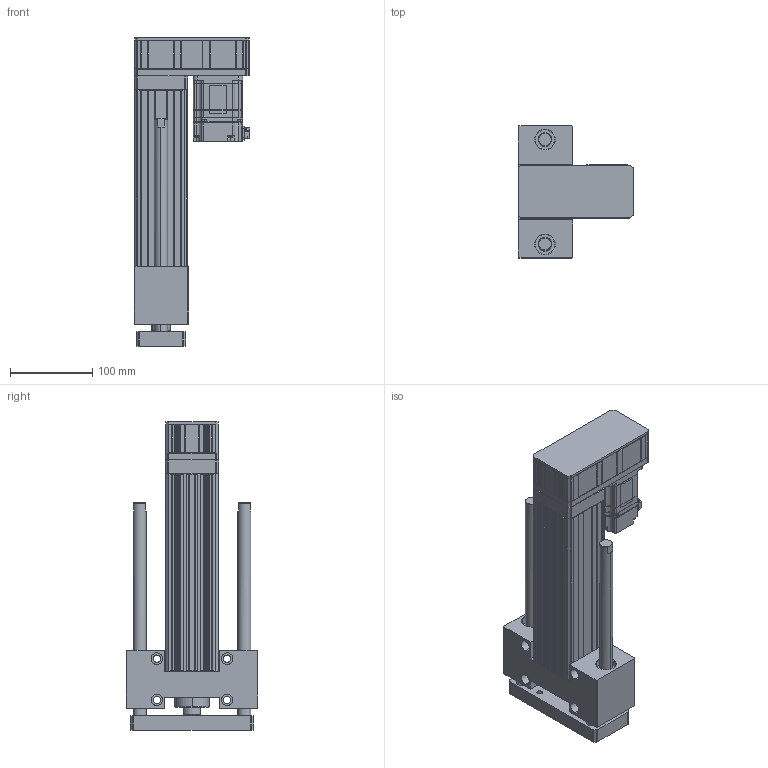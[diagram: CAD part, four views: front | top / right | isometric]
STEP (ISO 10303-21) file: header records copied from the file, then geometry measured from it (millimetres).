
FILE_DESCRIPTION (( 'STEP AP203' ), '1' );
FILE_NAME ('ANS065-HP150-05(10)-W20.STEP', '2019-03-01T05:42:03', ( 'user' ), ( '' ), 'SwSTEP 2.0', 'SolidWorks 2013', '' );
FILE_SCHEMA (( 'CONFIG_CONTROL_DESIGN' ));
Length unit declared in the file: millimetre
Products named in the file (4): sgmjv_02a_a21; ANS065-HP150-05(10)-W20; ANS065 HP150 VER2; ANS065 ROD ST150 G
Assembly tree (3 placements, depth 2):
  ANS065-HP150-05(10)-W20
    ANS065 HP150 VER2
    ANS065 ROD ST150 G
    sgmjv_02a_a21
Bounding box: 140.3 x 160 x 374.5 mm (x, y, z)
Volume: 1745901.4 mm3; surface area: 397937 mm2
Topology: 3 solids, 7 shells, 1458 faces, 3875 edges, 2502 vertices
Faces by surface type: plane 896, cylinder 452, cone 110
Entity records: 45387 total; most frequent: CARTESIAN_POINT 8127, ORIENTED_EDGE 7710, DIRECTION 7657, EDGE_CURVE 3855, VECTOR 2793, LINE 2793, VERTEX_POINT 2502, AXIS2_PLACEMENT_3D 2432
